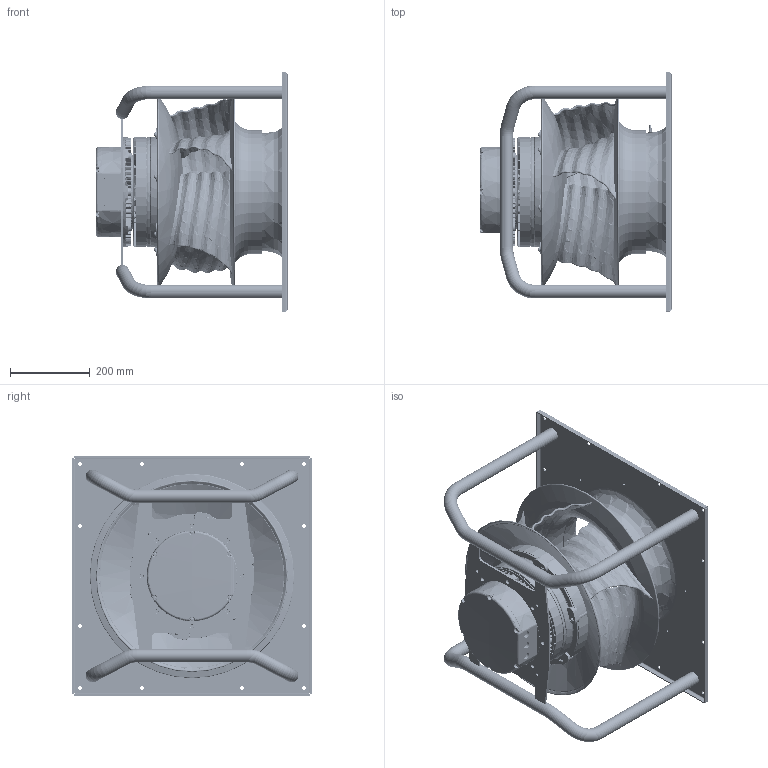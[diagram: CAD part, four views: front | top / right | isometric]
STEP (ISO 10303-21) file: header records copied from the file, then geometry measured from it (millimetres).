
FILE_DESCRIPTION((''),'2;1');
FILE_NAME('ZAC_06-09-34-KM','2020-05-20T06:10:10',('moldovan'),(''),'CREO PARAMETRIC BY PTC INC, 2019444','CREO PARAMETRIC BY PTC INC, 2019444','');
FILE_SCHEMA(('AUTOMOTIVE_DESIGN { 1 0 10303 214 1 1 1 1 }'));
Length unit declared in the file: millimetre
Products named in the file (1): ZAC_06-09-34-KM
Bounding box: 484 x 600 x 600 mm (x, y, z)
Volume: 12968639.7 mm3; surface area: 3157502.3 mm2
Topology: 2 solids, 5 shells, 7541 faces, 18938 edges, 11528 vertices
Faces by surface type: bspline 2239, plane 1863, cylinder 1116, torus 1094, cone 745, extrusion 434, sphere 42, revolution 8
Entity records: 453872 total; most frequent: CARTESIAN_POINT 278722, ORIENTED_EDGE 37866, DIRECTION 29554, EDGE_CURVE 18933, AXIS2_PLACEMENT_3D 11898, VERTEX_POINT 11528, EDGE_LOOP 7895, FACE_OUTER_BOUND 7541
